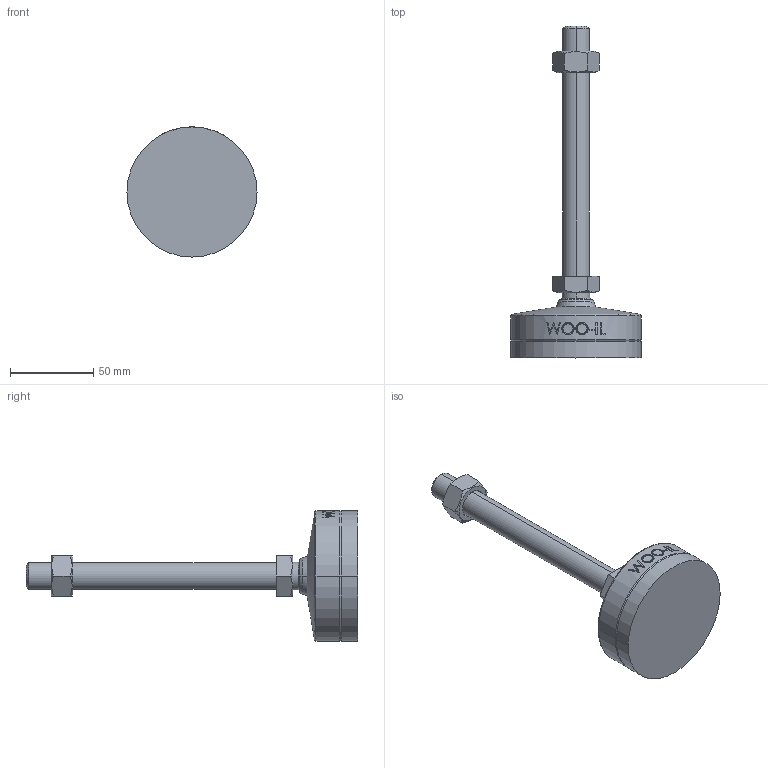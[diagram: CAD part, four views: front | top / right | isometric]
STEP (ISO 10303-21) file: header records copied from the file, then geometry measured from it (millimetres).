
FILE_DESCRIPTION (( 'STEP AP214' ), '1' );
FILE_NAME ('MFNR78-M16-150.step', '2021-02-22T09:07:46', ( '' ), ( '' ), 'SwSTEP 2.0', 'SolidWorks 2019', '' );
FILE_SCHEMA (( 'AUTOMOTIVE_DESIGN' ));
Length unit declared in the file: millimetre
Products named in the file (2): MFNR78-M16-150
Bounding box: 78 x 199 x 78 mm (x, y, z)
Volume: 175534.3 mm3; surface area: 27782.7 mm2
Topology: 2 solids, 2 shells, 105 faces, 245 edges, 156 vertices
Faces by surface type: plane 47, cone 18, cylinder 18, bspline 16, torus 4, sphere 2
Entity records: 4517 total; most frequent: CARTESIAN_POINT 2180, ORIENTED_EDGE 490, DIRECTION 437, EDGE_CURVE 245, AXIS2_PLACEMENT_3D 167, VERTEX_POINT 156, EDGE_LOOP 119, FACE_OUTER_BOUND 105
